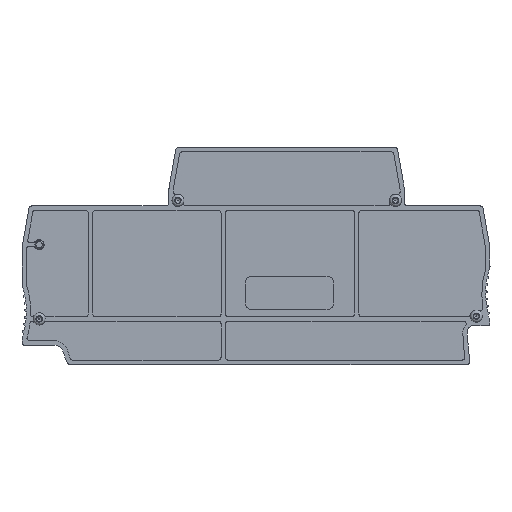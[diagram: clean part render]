
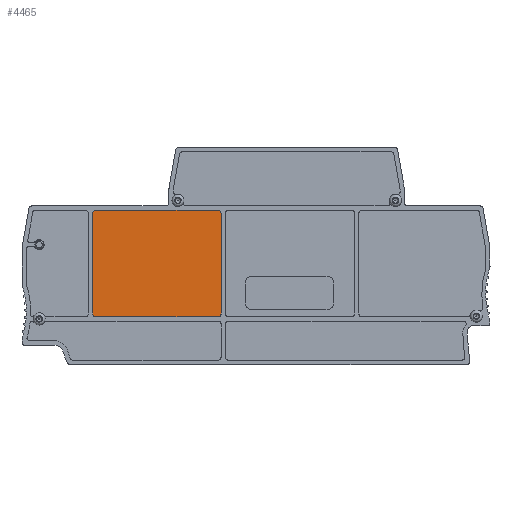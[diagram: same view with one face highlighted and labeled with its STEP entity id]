
A CAD part, top view. The second image highlights one B-rep face of the part: STEP entity #4465.
In plain terms, the highlighted planar face has unit normal (0, 0, 1).
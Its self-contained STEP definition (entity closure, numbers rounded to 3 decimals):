
#4465 = ADVANCED_FACE('',(#4466),#4480,.T.);
#4466 = FACE_BOUND('',#4467,.T.);
#4467 = EDGE_LOOP('',(#4468,#4491,#4508,#4524,#4541,#4557,#4574,#4590));
#4468 = ORIENTED_EDGE('',*,*,#4469,.F.);
#4469 = EDGE_CURVE('',#4470,#4472,#4474,.T.);
#4470 = VERTEX_POINT('',#4471);
#4471 = CARTESIAN_POINT('',(36.017,27.6,0.8));
#4472 = VERTEX_POINT('',#4473);
#4473 = CARTESIAN_POINT('',(36.017,9.35,0.8));
#4474 = SURFACE_CURVE('',#4475,(#4479),.PCURVE_S1.);
#4475 = LINE('',#4476,#4477);
#4476 = CARTESIAN_POINT('',(36.017,17.485,0.8));
#4477 = VECTOR('',#4478,1.);
#4478 = DIRECTION('',(0.,-1.,0.));
#4479 = PCURVE('',#4480,#4485);
#4480 = PLANE('',#4481);
#4481 = AXIS2_PLACEMENT_3D('',#4482,#4483,#4484);
#4482 = CARTESIAN_POINT('',(1.6,14.769,0.8));
#4483 = DIRECTION('',(0.,0.,1.));
#4484 = DIRECTION('',(1.,0.,0.));
#4485 = DEFINITIONAL_REPRESENTATION('',(#4486),#4490);
#4486 = LINE('',#4487,#4488);
#4487 = CARTESIAN_POINT('',(34.417,2.716));
#4488 = VECTOR('',#4489,1.);
#4489 = DIRECTION('',(0.,-1.));
#4490 = ( GEOMETRIC_REPRESENTATION_CONTEXT(2) 
PARAMETRIC_REPRESENTATION_CONTEXT() REPRESENTATION_CONTEXT('2D SPACE',''
  ) );
#4491 = ORIENTED_EDGE('',*,*,#4492,.T.);
#4492 = EDGE_CURVE('',#4470,#4493,#4495,.T.);
#4493 = VERTEX_POINT('',#4494);
#4494 = CARTESIAN_POINT('',(35.517,28.1,0.8));
#4495 = SURFACE_CURVE('',#4496,(#4501),.PCURVE_S1.);
#4496 = CIRCLE('',#4497,0.5);
#4497 = AXIS2_PLACEMENT_3D('',#4498,#4499,#4500);
#4498 = CARTESIAN_POINT('',(35.517,27.6,0.8));
#4499 = DIRECTION('',(0.,0.,1.));
#4500 = DIRECTION('',(1.,0.,0.));
#4501 = PCURVE('',#4480,#4502);
#4502 = DEFINITIONAL_REPRESENTATION('',(#4503),#4507);
#4503 = CIRCLE('',#4504,0.5);
#4504 = AXIS2_PLACEMENT_2D('',#4505,#4506);
#4505 = CARTESIAN_POINT('',(33.917,12.831));
#4506 = DIRECTION('',(1.,0.));
#4507 = ( GEOMETRIC_REPRESENTATION_CONTEXT(2) 
PARAMETRIC_REPRESENTATION_CONTEXT() REPRESENTATION_CONTEXT('2D SPACE',''
  ) );
#4508 = ORIENTED_EDGE('',*,*,#4509,.F.);
#4509 = EDGE_CURVE('',#4510,#4493,#4512,.T.);
#4510 = VERTEX_POINT('',#4511);
#4511 = CARTESIAN_POINT('',(13.306,28.1,0.8));
#4512 = SURFACE_CURVE('',#4513,(#4517),.PCURVE_S1.);
#4513 = LINE('',#4514,#4515);
#4514 = CARTESIAN_POINT('',(82.702,28.1,0.8));
#4515 = VECTOR('',#4516,1.);
#4516 = DIRECTION('',(1.,0.,0.));
#4517 = PCURVE('',#4480,#4518);
#4518 = DEFINITIONAL_REPRESENTATION('',(#4519),#4523);
#4519 = LINE('',#4520,#4521);
#4520 = CARTESIAN_POINT('',(81.102,13.331));
#4521 = VECTOR('',#4522,1.);
#4522 = DIRECTION('',(1.,0.));
#4523 = ( GEOMETRIC_REPRESENTATION_CONTEXT(2) 
PARAMETRIC_REPRESENTATION_CONTEXT() REPRESENTATION_CONTEXT('2D SPACE',''
  ) );
#4524 = ORIENTED_EDGE('',*,*,#4525,.T.);
#4525 = EDGE_CURVE('',#4510,#4526,#4528,.T.);
#4526 = VERTEX_POINT('',#4527);
#4527 = CARTESIAN_POINT('',(12.806,27.6,0.8));
#4528 = SURFACE_CURVE('',#4529,(#4534),.PCURVE_S1.);
#4529 = CIRCLE('',#4530,0.5);
#4530 = AXIS2_PLACEMENT_3D('',#4531,#4532,#4533);
#4531 = CARTESIAN_POINT('',(13.306,27.6,0.8));
#4532 = DIRECTION('',(0.,0.,1.));
#4533 = DIRECTION('',(1.,0.,0.));
#4534 = PCURVE('',#4480,#4535);
#4535 = DEFINITIONAL_REPRESENTATION('',(#4536),#4540);
#4536 = CIRCLE('',#4537,0.5);
#4537 = AXIS2_PLACEMENT_2D('',#4538,#4539);
#4538 = CARTESIAN_POINT('',(11.706,12.831));
#4539 = DIRECTION('',(1.,0.));
#4540 = ( GEOMETRIC_REPRESENTATION_CONTEXT(2) 
PARAMETRIC_REPRESENTATION_CONTEXT() REPRESENTATION_CONTEXT('2D SPACE',''
  ) );
#4541 = ORIENTED_EDGE('',*,*,#4542,.F.);
#4542 = EDGE_CURVE('',#4543,#4526,#4545,.T.);
#4543 = VERTEX_POINT('',#4544);
#4544 = CARTESIAN_POINT('',(12.806,9.35,0.8));
#4545 = SURFACE_CURVE('',#4546,(#4550),.PCURVE_S1.);
#4546 = LINE('',#4547,#4548);
#4547 = CARTESIAN_POINT('',(12.806,0.8,0.8));
#4548 = VECTOR('',#4549,1.);
#4549 = DIRECTION('',(0.,1.,0.));
#4550 = PCURVE('',#4480,#4551);
#4551 = DEFINITIONAL_REPRESENTATION('',(#4552),#4556);
#4552 = LINE('',#4553,#4554);
#4553 = CARTESIAN_POINT('',(11.206,-13.969));
#4554 = VECTOR('',#4555,1.);
#4555 = DIRECTION('',(0.,1.));
#4556 = ( GEOMETRIC_REPRESENTATION_CONTEXT(2) 
PARAMETRIC_REPRESENTATION_CONTEXT() REPRESENTATION_CONTEXT('2D SPACE',''
  ) );
#4557 = ORIENTED_EDGE('',*,*,#4558,.T.);
#4558 = EDGE_CURVE('',#4543,#4559,#4561,.T.);
#4559 = VERTEX_POINT('',#4560);
#4560 = CARTESIAN_POINT('',(13.306,8.85,0.8));
#4561 = SURFACE_CURVE('',#4562,(#4567),.PCURVE_S1.);
#4562 = CIRCLE('',#4563,0.5);
#4563 = AXIS2_PLACEMENT_3D('',#4564,#4565,#4566);
#4564 = CARTESIAN_POINT('',(13.306,9.35,0.8));
#4565 = DIRECTION('',(0.,0.,1.));
#4566 = DIRECTION('',(1.,0.,0.));
#4567 = PCURVE('',#4480,#4568);
#4568 = DEFINITIONAL_REPRESENTATION('',(#4569),#4573);
#4569 = CIRCLE('',#4570,0.5);
#4570 = AXIS2_PLACEMENT_2D('',#4571,#4572);
#4571 = CARTESIAN_POINT('',(11.706,-5.419));
#4572 = DIRECTION('',(1.,0.));
#4573 = ( GEOMETRIC_REPRESENTATION_CONTEXT(2) 
PARAMETRIC_REPRESENTATION_CONTEXT() REPRESENTATION_CONTEXT('2D SPACE',''
  ) );
#4574 = ORIENTED_EDGE('',*,*,#4575,.F.);
#4575 = EDGE_CURVE('',#4576,#4559,#4578,.T.);
#4576 = VERTEX_POINT('',#4577);
#4577 = CARTESIAN_POINT('',(35.517,8.85,0.8));
#4578 = SURFACE_CURVE('',#4579,(#4583),.PCURVE_S1.);
#4579 = LINE('',#4580,#4581);
#4580 = CARTESIAN_POINT('',(83.66,8.85,0.8));
#4581 = VECTOR('',#4582,1.);
#4582 = DIRECTION('',(-1.,0.,0.));
#4583 = PCURVE('',#4480,#4584);
#4584 = DEFINITIONAL_REPRESENTATION('',(#4585),#4589);
#4585 = LINE('',#4586,#4587);
#4586 = CARTESIAN_POINT('',(82.06,-5.919));
#4587 = VECTOR('',#4588,1.);
#4588 = DIRECTION('',(-1.,0.));
#4589 = ( GEOMETRIC_REPRESENTATION_CONTEXT(2) 
PARAMETRIC_REPRESENTATION_CONTEXT() REPRESENTATION_CONTEXT('2D SPACE',''
  ) );
#4590 = ORIENTED_EDGE('',*,*,#4591,.T.);
#4591 = EDGE_CURVE('',#4576,#4472,#4592,.T.);
#4592 = SURFACE_CURVE('',#4593,(#4598),.PCURVE_S1.);
#4593 = CIRCLE('',#4594,0.5);
#4594 = AXIS2_PLACEMENT_3D('',#4595,#4596,#4597);
#4595 = CARTESIAN_POINT('',(35.517,9.35,0.8));
#4596 = DIRECTION('',(0.,0.,1.));
#4597 = DIRECTION('',(1.,0.,0.));
#4598 = PCURVE('',#4480,#4599);
#4599 = DEFINITIONAL_REPRESENTATION('',(#4600),#4604);
#4600 = CIRCLE('',#4601,0.5);
#4601 = AXIS2_PLACEMENT_2D('',#4602,#4603);
#4602 = CARTESIAN_POINT('',(33.917,-5.419));
#4603 = DIRECTION('',(1.,0.));
#4604 = ( GEOMETRIC_REPRESENTATION_CONTEXT(2) 
PARAMETRIC_REPRESENTATION_CONTEXT() REPRESENTATION_CONTEXT('2D SPACE',''
  ) );
